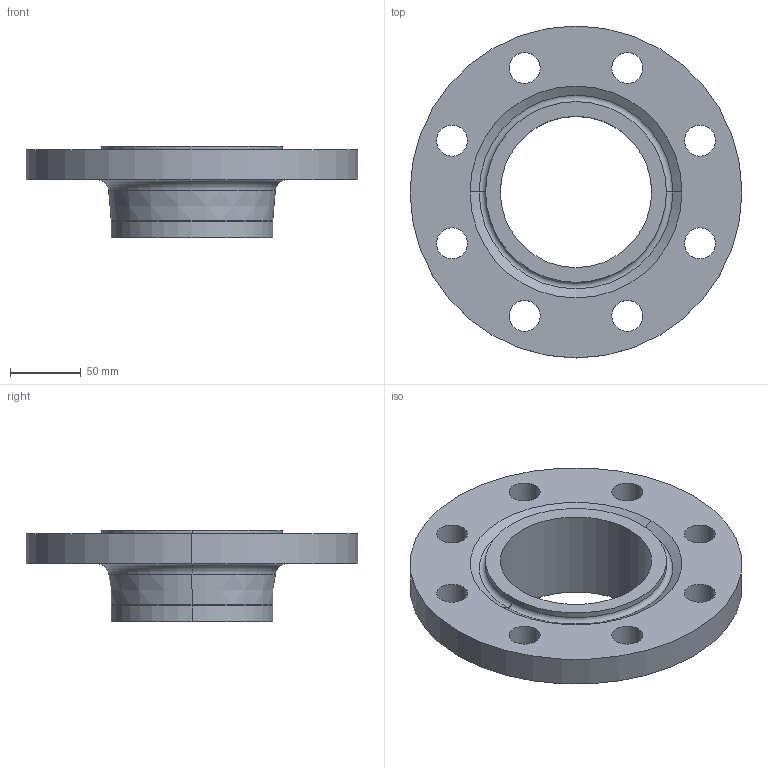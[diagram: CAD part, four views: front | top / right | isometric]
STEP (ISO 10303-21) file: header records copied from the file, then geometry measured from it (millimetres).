
FILE_DESCRIPTION (( 'STEP AP214' ), '1' );
FILE_NAME ('PN40 DN100 Type 11 - Type H Face.STEP', '2019-01-02T00:22:27', ( '' ), ( '' ), 'SwSTEP 2.0', 'SolidWorks 2019', '' );
FILE_SCHEMA (( 'AUTOMOTIVE_DESIGN' ));
Length unit declared in the file: millimetre
Products named in the file (1): PN40 DN100 Type 11 - Type H Face
Bounding box: 235 x 235 x 65 mm (x, y, z)
Volume: 738655.6 mm3; surface area: 128190.3 mm2
Topology: 1 solids, 1 shells, 38 faces, 92 edges, 58 vertices
Faces by surface type: cylinder 24, torus 6, cone 4, plane 4
Entity records: 1210 total; most frequent: DIRECTION 234, CARTESIAN_POINT 189, ORIENTED_EDGE 184, AXIS2_PLACEMENT_3D 103, EDGE_CURVE 92, CIRCLE 64, EDGE_LOOP 58, VERTEX_POINT 58
